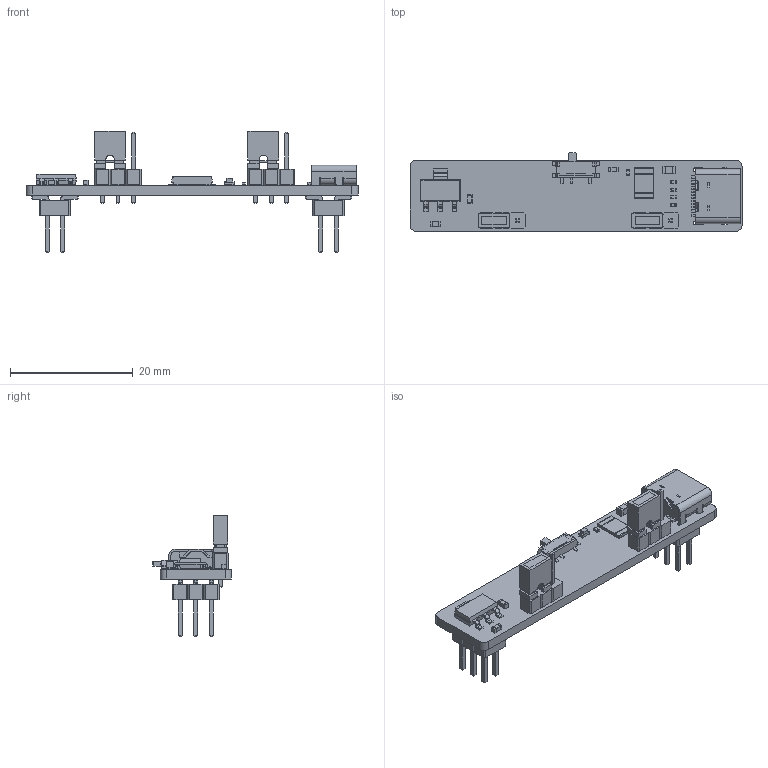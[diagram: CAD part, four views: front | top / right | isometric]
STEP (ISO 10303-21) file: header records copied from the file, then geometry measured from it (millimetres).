
FILE_DESCRIPTION(('KiCad electronic assembly'),'2;1');
FILE_NAME('STP_AXM0001.step','2024-11-12T15:55:09',('Pcbnew'),('Kicad'), 'Open CASCADE STEP processor 7.8','KiCad to STEP converter','Unknown' );
FILE_SCHEMA(('AUTOMOTIVE_DESIGN { 1 0 10303 214 1 1 1 1 }'));
Length unit declared in the file: millimetre
Products named in the file (26): STP_AXM0001 1; PinHeader_1x03_P2.54mm_Vertical; PinHeader_1x03_P254mm_Vertical; JumperCap; M7580_ASM; R_0402_1005Metric; C_0805_2012Metric; Fuse_0805_2012Metric; C_0402_1005Metric; SlideSwitch; PCM12SMTR; SOT-223; SOT_223; LED_0603_1608Metric; Type-C 16P; C_0603_1608Metric; PinHeader_2x03_P2.54mm_Vertical_SMD; PinHeader_2x03_P254mm_Vertical_SMD; Breadboard Supply_PCB
Assembly tree (32 placements, depth 3):
  STP_AXM0001 1
    PinHeader_1x03_P2.54mm_Vertical  x2
      PinHeader_1x03_P254mm_Vertical
    JumperCap  x2
      M7580_ASM
    R_0402_1005Metric  x3
      R_0402_1005Metric
    C_0805_2012Metric
      C_0805_2012Metric
    Fuse_0805_2012Metric
      Fuse_0805_2012Metric
    C_0402_1005Metric  x2
      C_0402_1005Metric
    SlideSwitch
      PCM12SMTR
    SOT-223
      SOT_223
    LED_0603_1608Metric
      LED_0603_1608Metric
    Type-C 16P
      Type-C 16P
    C_0603_1608Metric  x2
      C_0603_1608Metric
    PinHeader_2x03_P2.54mm_Vertical_SMD  x2
      PinHeader_2x03_P254mm_Vertical_SMD
    Breadboard Supply_PCB
Bounding box: 54 x 12.82 x 19.7 mm (x, y, z)
Volume: 1607.6 mm3; surface area: 3619.2 mm2
Topology: 27 solids, 27 shells, 1450 faces, 3841 edges, 2496 vertices
Faces by surface type: plane 1140, cylinder 260, bspline 42, cone 4, torus 4
Full cylindrical faces by diameter (mm): 0.65 x2, 1 x8
Entity records: 37431 total; most frequent: CARTESIAN_POINT 5903, ORIENTED_EDGE 5488, DIRECTION 5106, EDGE_CURVE 2744, LINE 2228, VECTOR 2228, VERTEX_POINT 1792, AXIS2_PLACEMENT_3D 1439
